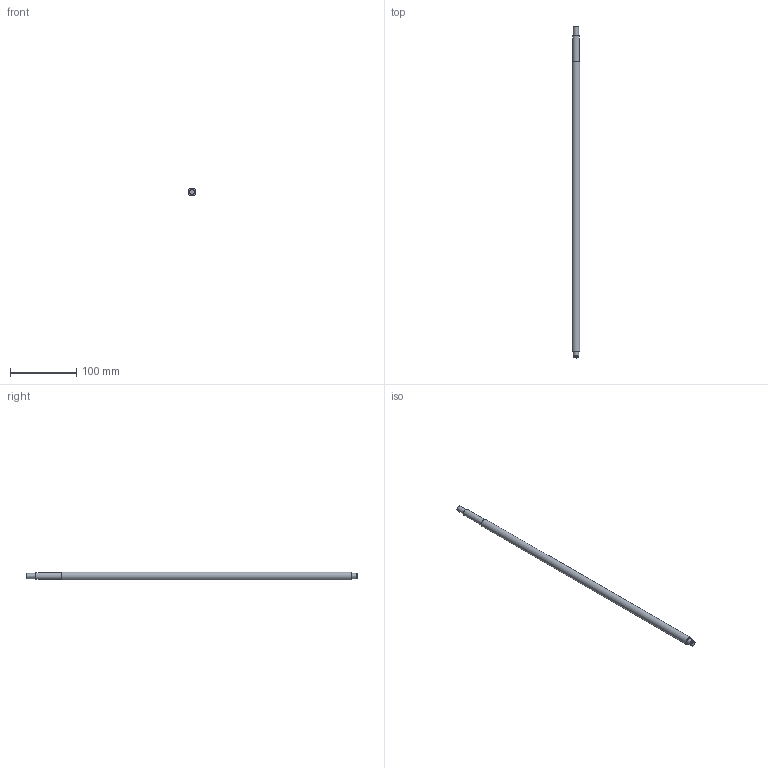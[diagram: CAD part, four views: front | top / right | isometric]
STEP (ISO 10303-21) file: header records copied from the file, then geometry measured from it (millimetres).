
FILE_DESCRIPTION(/* description */ (''),/* implementation_level */ '2;1');
FILE_NAME(/* name */ 'C:\Users\David\Desktop\stepFiles\Profilfuehrung\KUS1204x500.stp',/* time_stamp */ '2018-06-24T15:05:13+02:00',/* author */ ('David'),/* organization */ (''),/* preprocessor_version */ 'ST-DEVELOPER v17',/* originating_system */ 'Autodesk Inventor 2019',/* authorisation */ '');
FILE_SCHEMA (('AUTOMOTIVE_DESIGN { 1 0 10303 214 3 1 1 }'));
Length unit declared in the file: millimetre
Products named in the file (1): SFU1204xvariabel
Bounding box: 12 x 500 x 12 mm (x, y, z)
Volume: 53619.7 mm3; surface area: 18509.8 mm2
Topology: 1 solids, 1 shells, 15 faces, 34 edges, 26 vertices
Faces by surface type: plane 7, cylinder 6, cone 2
Full cylindrical faces by diameter (mm): 7.6 x1, 8 x3, 10 x1, 12 x1
Entity records: 493 total; most frequent: DIRECTION 92, CARTESIAN_POINT 76, ORIENTED_EDGE 68, AXIS2_PLACEMENT_3D 42, EDGE_CURVE 34, CIRCLE 26, VERTEX_POINT 26, EDGE_LOOP 20
